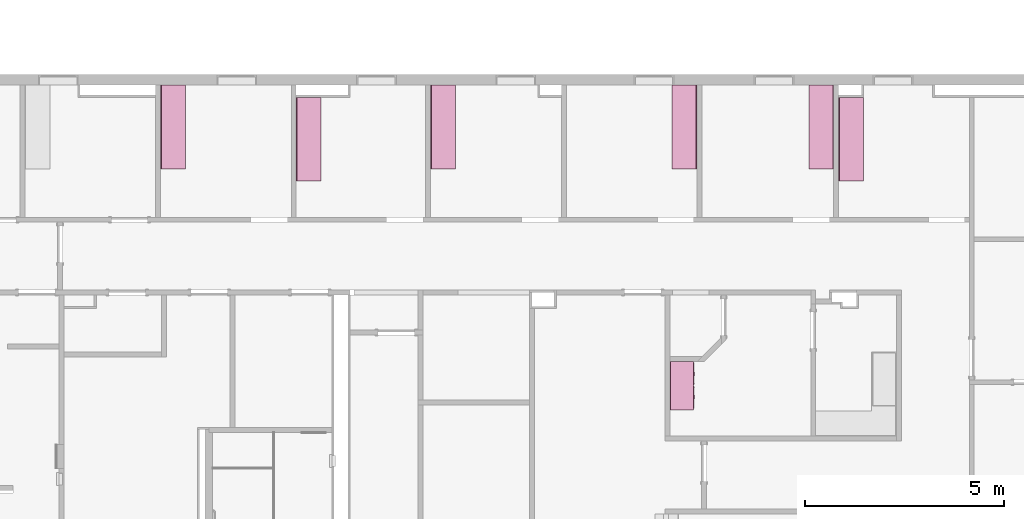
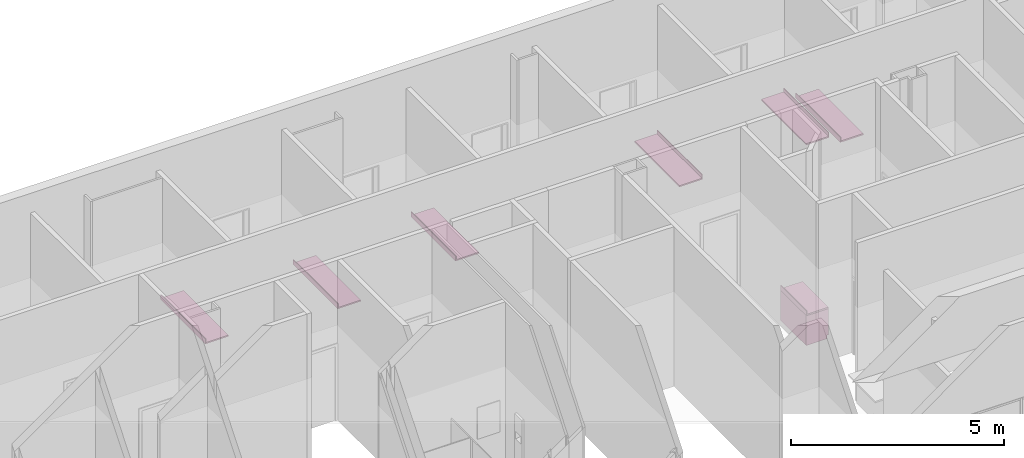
# One storey, part 43 of 45: 8 furnishings, 6 openings.
"""IFC2X3 building model written with IfcOpenShell, lengths in metres."""

from ifc_helpers import new_model, entity, si_unit, converted_unit, frame, frame_2d, origin, origin_2d_with_axis, place, context, project, spatial, polyline, circle_curve, parameter, trimmed, segment, composite_curve, rectangle, outline, extrude, face_set, surface_model, source, transform, mapped, type_object, type_shapes, element, save


model = new_model("IFC2X3")

# Units and contexts
model_context = context("Model", 3, precision=1e-09, world=origin())
plan_context = context("Plan", 3, precision=1e-09, world=origin())
ifc_project = project(units=[si_unit("LENGTHUNIT", "METRE"), si_unit("AREAUNIT", "SQUARE_METRE"), si_unit("VOLUMEUNIT", "CUBIC_METRE"), converted_unit("PLANEANGLEUNIT", "DEGREE", entity("IfcRatioMeasure", 0.01745329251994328), si_unit("PLANEANGLEUNIT", "RADIAN"), dimensions=[0, 0, 0, 0, 0, 0, 0]), si_unit("TIMEUNIT", "SECOND")], contexts=[model_context, plan_context])

# Site, building, storey, space
site_placement = place(None, origin())
site = spatial("IfcSite", under=ifc_project, at=site_placement, Name="Default", CompositionType="ELEMENT")
building_placement = place(site_placement, origin())
building = spatial("IfcBuilding", under=site, at=building_placement, CompositionType="ELEMENT")
storey_placement = place(building_placement, frame((0.0, 0.0, 4.570000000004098)))
storey = spatial("IfcBuildingStorey", under=building, at=storey_placement, Name="Second Floor", CompositionType="ELEMENT", Elevation=4.570000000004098)
space_1_placement = place(storey_placement, origin())
space_1 = spatial("IfcSpace", under=storey, at=space_1_placement, Name="2A12", CompositionType="ELEMENT", InteriorOrExteriorSpace="INTERNAL")

# Furnishing
furniture_type_1 = type_object("IfcFurnitureType", Name="1200mm", AssemblyPlace="NOTDEFINED")
shared_shape_1 = source(origin(), model_context, "Body", "SurfaceModel", [
    surface_model("IfcFaceBasedSurfaceModel", [(1.180949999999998, 0.04445000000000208, 0.86000000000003), (1.180949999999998, 0.04445000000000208, 0.09999999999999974), (0.01905000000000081, 0.04445000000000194, 0.09999999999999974), (0.01905000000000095, 0.04445000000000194, 0.86000000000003), (1.2, 0.02540000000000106, 0.8600000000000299), (0.0, 0.02540000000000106, 0.8600000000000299), (1.2, 0.02540000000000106, 0.09999999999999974), (0.0, 0.02540000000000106, 0.0999999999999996), (0.01905000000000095, 0.6063499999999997, 0.86000000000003), (0.01905000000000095, 0.6063499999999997, 0.09999999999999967), (0.01905000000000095, 0.06040000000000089, 0.09999999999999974), (0.0, 0.6254000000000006, 0.8600000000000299), (0.0, 0.6254000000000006, 0.0), (0.0, 0.06040000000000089, 0.0), (0.0, 0.06040000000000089, 0.09999999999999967), (1.180949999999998, 0.6063499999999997, 0.86000000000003), (1.180949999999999, 0.6063499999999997, 0.09999999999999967), (1.2, 0.6254000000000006, 0.8600000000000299), (1.2, 0.6254000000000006, 0.0), (1.180949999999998, 0.06040000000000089, 0.09999999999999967), (1.2, 0.06040000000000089, 0.09999999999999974), (1.2, 0.06040000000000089, 0.0), (0.3603250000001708, 0.0, 0.8155500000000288), (0.3603250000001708, 0.0, 0.8028500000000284), (0.258725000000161, 0.0, 0.8028500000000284), (0.258725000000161, 0.0, 0.8155500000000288), (0.9412750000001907, 0.0, 0.8155500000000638), (0.9412750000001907, 0.0, 0.8028500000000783), (0.8396750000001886, 0.0, 0.8028500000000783), (0.8396750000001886, 0.0, 0.8155500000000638), (0.5650750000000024, 0.0, 0.6822000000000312), (0.5650750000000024, 0.0, 0.5806000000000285), (0.5523750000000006, 0.0, 0.5806000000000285), (0.5523750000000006, 0.0, 0.6822000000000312), (0.6476249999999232, 0.0, 0.6822000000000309), (0.6476249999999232, 0.0, 0.5806000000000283), (0.6349249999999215, 0.0, 0.5806000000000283), (0.6349249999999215, 0.0, 0.6822000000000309), (0.3603250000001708, 0.01270000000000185, 0.8155500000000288), (0.3603250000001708, 0.01270000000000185, 0.8028500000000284), (0.2587250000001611, 0.01270000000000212, 0.8028500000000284), (0.2587250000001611, 0.01270000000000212, 0.8155500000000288), (0.9412750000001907, 0.01269999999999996, 0.8155500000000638), (0.9412750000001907, 0.01269999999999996, 0.8028500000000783), (0.8396750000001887, 0.01270000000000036, 0.8028500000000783), (0.8396750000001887, 0.01270000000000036, 0.8155500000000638), (0.5650750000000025, 0.01270000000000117, 0.6822000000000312), (0.5650750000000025, 0.01270000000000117, 0.5806000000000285), (0.5523750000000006, 0.01270000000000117, 0.5806000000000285), (0.5523750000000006, 0.01270000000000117, 0.6822000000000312), (0.6476249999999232, 0.0127000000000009, 0.6822000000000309), (0.6476249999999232, 0.0127000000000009, 0.5806000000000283), (0.6349249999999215, 0.0127000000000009, 0.5806000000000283), (0.6349249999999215, 0.0127000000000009, 0.6822000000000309), (0.5904749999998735, 0.01270000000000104, 0.8409500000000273), (0.5904749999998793, 0.01270000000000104, 0.7393500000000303), (0.01905000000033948, 0.0127000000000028, 0.7393500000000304), (0.01905000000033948, 0.0127000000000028, 0.8409500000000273), (1.180950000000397, 0.01269999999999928, 0.8409500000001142), (1.180950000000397, 0.01269999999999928, 0.7393500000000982), (0.6095249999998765, 0.01270000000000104, 0.7393500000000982), (0.6095249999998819, 0.01270000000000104, 0.8409500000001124), (0.5904749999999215, 0.01270000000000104, 0.7203000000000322), (0.5904749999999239, 0.01270000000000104, 0.1190499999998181), (0.01905000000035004, 0.0127000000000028, 0.1190499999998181), (0.01905000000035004, 0.0127000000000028, 0.7203000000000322), (1.180950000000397, 0.01269999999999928, 0.7203000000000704), (1.180950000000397, 0.01269999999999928, 0.1190499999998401), (0.6095249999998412, 0.01270000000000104, 0.1190499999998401), (0.6095249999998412, 0.01270000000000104, 0.7203000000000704), (0.5904749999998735, 0.02540000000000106, 0.8409500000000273), (0.5904749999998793, 0.02540000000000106, 0.7393500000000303), (0.01905000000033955, 0.02540000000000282, 0.7393500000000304), (0.01905000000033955, 0.02540000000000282, 0.8409500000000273), (1.180950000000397, 0.02539999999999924, 0.8409500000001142), (1.180950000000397, 0.02539999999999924, 0.7393500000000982), (0.6095249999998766, 0.025400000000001, 0.7393500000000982), (0.6095249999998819, 0.025400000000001, 0.8409500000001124), (0.5904749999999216, 0.02540000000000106, 0.7203000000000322), (0.5904749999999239, 0.02540000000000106, 0.1190499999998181), (0.01905000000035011, 0.02540000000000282, 0.1190499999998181), (0.01905000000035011, 0.02540000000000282, 0.7203000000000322), (1.180950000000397, 0.02539999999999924, 0.7203000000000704), (1.180950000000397, 0.02539999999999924, 0.1190499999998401), (0.6095249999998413, 0.025400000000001, 0.1190499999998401), (0.6095249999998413, 0.025400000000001, 0.7203000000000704), (1.180949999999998, 0.6063499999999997, 0.1190499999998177), (1.180949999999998, 0.04445000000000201, 0.1190499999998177), (0.01905000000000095, 0.04445000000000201, 0.1190499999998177), (0.01905000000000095, 0.6063499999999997, 0.1190499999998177), (1.180949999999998, 0.6063499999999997, 0.09999999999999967), (1.180949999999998, 0.04445000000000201, 0.09999999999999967), (0.01905000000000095, 0.04445000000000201, 0.09999999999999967)], [face_set([[[0, 1, 2, 3]], [[0, 4, 5, 3]], [[4, 6, 7, 5]], [[2, 1, 6, 7]], [[3, 8, 9, 10, 2]], [[5, 11, 8, 3]], [[7, 5, 11, 12, 13, 14]], [[2, 7, 14, 10]], [[8, 15, 16, 9]], [[11, 17, 15, 8]], [[12, 11, 17, 18]], [[1, 19, 16, 15, 0]], [[0, 15, 17, 4]], [[4, 6, 20, 21, 18, 17]], [[6, 1, 19, 20]], [[10, 9, 16, 19]], [[18, 21, 13, 12]], [[13, 14, 10, 19, 20, 21]]]), face_set([[[22, 23, 24, 25]], [[26, 27, 28, 29]], [[30, 31, 32, 33]], [[34, 35, 36, 37]], [[38, 39, 40, 41]], [[42, 43, 44, 45]], [[46, 47, 48, 49]], [[50, 51, 52, 53]], [[25, 41, 38, 22]], [[24, 40, 41, 25]], [[23, 24, 40, 39]], [[22, 23, 39, 38]], [[29, 45, 42, 26]], [[28, 44, 45, 29]], [[27, 28, 44, 43]], [[26, 27, 43, 42]], [[33, 49, 46, 30]], [[32, 48, 49, 33]], [[31, 32, 48, 47]], [[30, 31, 47, 46]], [[37, 53, 50, 34]], [[36, 52, 53, 37]], [[35, 36, 52, 51]], [[34, 35, 51, 50]]]), face_set([[[54, 55, 56, 57]], [[58, 59, 60, 61]], [[62, 63, 64, 65]], [[66, 67, 68, 69]], [[70, 71, 72, 73]], [[74, 75, 76, 77]], [[78, 79, 80, 81]], [[82, 83, 84, 85]], [[57, 73, 70, 54]], [[56, 57, 73, 72]], [[55, 56, 72, 71]], [[54, 55, 71, 70]], [[61, 77, 74, 58]], [[60, 76, 77, 61]], [[59, 60, 76, 75]], [[58, 59, 75, 74]], [[65, 81, 78, 62]], [[64, 65, 81, 80]], [[63, 64, 80, 79]], [[62, 63, 79, 78]], [[69, 85, 82, 66]], [[68, 84, 85, 69]], [[67, 68, 84, 83]], [[66, 67, 83, 82]]]), face_set([[[86, 87, 88, 89]], [[90, 91, 92, 9]], [[89, 86, 90, 9]], [[88, 89, 9, 92]], [[87, 91, 92, 88]], [[86, 87, 91, 90]]])]),
])
type_shapes(furniture_type_1, [shared_shape_1])
furnishing_1_placement = place(space_1_placement, frame((-11.17060000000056, 42.04730203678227, 0.0), z_axis=(0.0, 0.0, 1.0), x_axis=(0.0, 1.0, 0.0)))
element("IfcFurnishingElement", 1, at=furnishing_1_placement, inside=space_1, type_object=furniture_type_1, Name="M_Base Cabinet-Double Door & 2 Drawer:1200mm:1200mm", ObjectType="1200mm", context=model_context, shape_type="MappedRepresentation", body=[
    mapped(shared_shape_1, transform((0.0, 0.0, 0.0), scale=1.0)),
])

# Space
space_2_placement = place(storey_placement, origin())
space_2 = spatial("IfcSpace", under=storey, at=space_2_placement, Name="2C02", CompositionType="ELEMENT", InteriorOrExteriorSpace="INTERNAL")

# Furnishing, opening
furniture_type_2 = type_object("IfcFurnitureType", Name="600mm Depth", AssemblyPlace="NOTDEFINED")
shared_shape_2 = source(origin(), model_context, "Body", "SweptSolid", [
    extrude(outline(polyline([(-0.0605333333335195, -0.2146833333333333), (0.08106666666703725, -0.2146833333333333), (0.08106666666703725, -0.1956333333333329), (-0.02053333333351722, -0.1956333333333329), (-0.02053333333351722, 0.4103166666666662), (-0.0605333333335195, 0.4103166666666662), (-0.0605333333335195, -0.2146833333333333)])), frame((-1.200462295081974, -0.2146833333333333, 0.920533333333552), z_axis=(1.0, 0.0, 0.0), x_axis=(0.0, 0.0, 1.0)), (0.0, 0.0, 1.0), 2.10996063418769),
])
type_shapes(furniture_type_2, [shared_shape_2])
furnishing_2_placement = place(space_2_placement, frame((-24.59600000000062, 49.29350166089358, 0.0), z_axis=(0.0, 0.0, 1.0), x_axis=(0.0, 1.0, 0.0)))
furnishing_2 = element("IfcFurnishingElement", 2, at=furnishing_2_placement, inside=space_2, type_object=furniture_type_2, Name="M_Counter Top w Sink Hole:600mm Depth:600mm Depth", ObjectType="600mm Depth", context=model_context, shape_type="MappedRepresentation", body=[
    mapped(shared_shape_2, transform((0.0, 0.0, 0.0), scale=1.0)),
])
opening_1_placement = place(space_2_placement, frame((-24.59600000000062, 49.29350166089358, 0.0), z_axis=(0.0, 0.0, 1.0), x_axis=(0.0, 1.0, 0.0)))
element("IfcOpeningElement", 3, at=opening_1_placement, cuts=furnishing_2, Name="M_Counter Top w Sink Hole:600mm Depth:600mm Depth:1", ObjectType="Opening", context=model_context, shape_type="SweptSolid", body=[
    extrude(outline(composite_curve([segment(polyline([(-0.1397000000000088, -0.2017000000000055), (0.1396999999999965, -0.2017000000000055)]), True, "CONTINUOUS"), segment(trimmed(circle_curve(frame_2d((0.1396999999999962, -0.1508999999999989), x_axis=(1.0, 0.0)), 0.05080000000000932), [parameter(270.0000000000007)], [parameter(1.068666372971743e-12)], True, "PARAMETER"), True, "CONTINUOUS"), segment(polyline([(0.1905000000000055, -0.1508999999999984), (0.1905000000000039, 0.1509000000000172)]), True, "CONTINUOUS"), segment(trimmed(circle_curve(frame_2d((0.1397000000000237, 0.1509000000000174), x_axis=(1.0, 0.0)), 0.05079999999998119), [parameter(359.9999999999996)], [parameter(90.0000000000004)], True, "PARAMETER"), True, "CONTINUOUS"), segment(polyline([(0.1397000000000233, 0.2016999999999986), (-0.1397000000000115, 0.2016999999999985)]), True, "CONTINUOUS"), segment(trimmed(circle_curve(frame_2d((-0.1397000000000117, 0.1509000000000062), x_axis=(1.0, 0.0)), 0.0507999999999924), [parameter(90.00000000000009)], [parameter(179.9999999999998)], True, "PARAMETER"), True, "CONTINUOUS"), segment(polyline([(-0.1905000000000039, 0.150900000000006), (-0.1905000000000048, -0.1509000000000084)]), True, "CONTINUOUS"), segment(trimmed(circle_curve(frame_2d((-0.1397000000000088, -0.1509000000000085), x_axis=(1.0, 0.0)), 0.05079999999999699), [parameter(179.9999999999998)], [parameter(269.9999999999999)], True, "PARAMETER"), True, "CONTINUOUS")], self_intersect=False)), frame((-0.2890000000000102, 0.861511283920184, -3.670000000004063), z_axis=(0.0, 0.0, -1.0), x_axis=(0.0, -1.0, 0.0)), (0.0, 0.0, 1.0), 0.04000000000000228),
])

# Space
space_3_placement = place(storey_placement, origin())
space_3 = spatial("IfcSpace", under=storey, at=space_3_placement, Name="2A08", CompositionType="ELEMENT", InteriorOrExteriorSpace="INTERNAL")

# Furnishing, opening
furniture_type_3 = type_object("IfcFurnitureType", Name="600mm Depth", AssemblyPlace="NOTDEFINED")
type_shapes(furniture_type_3, [shared_shape_2])
furnishing_3_placement = place(space_3_placement, frame((-17.81000000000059, 49.29350166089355, 0.0), z_axis=(0.0, 0.0, 1.0), x_axis=(0.0, 1.0, 0.0)))
furnishing_3 = element("IfcFurnishingElement", 4, at=furnishing_3_placement, inside=space_3, type_object=furniture_type_3, Name="M_Counter Top w Sink Hole:600mm Depth:600mm Depth", ObjectType="600mm Depth", context=model_context, shape_type="MappedRepresentation", body=[
    mapped(shared_shape_2, transform((0.0, 0.0, 0.0), scale=1.0)),
])
opening_2_placement = place(space_3_placement, frame((-17.81000000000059, 49.29350166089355, 0.0), z_axis=(0.0, 0.0, 1.0), x_axis=(0.0, 1.0, 0.0)))
element("IfcOpeningElement", 5, at=opening_2_placement, cuts=furnishing_3, Name="M_Counter Top w Sink Hole:600mm Depth:600mm Depth:1", ObjectType="Opening", context=model_context, shape_type="SweptSolid", body=[
    extrude(outline(composite_curve([segment(polyline([(-0.1397000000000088, -0.2017000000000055), (0.1396999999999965, -0.2017000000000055)]), True, "CONTINUOUS"), segment(trimmed(circle_curve(frame_2d((0.1396999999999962, -0.1508999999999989), x_axis=(1.0, 0.0)), 0.05080000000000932), [parameter(270.0000000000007)], [parameter(1.068666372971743e-12)], True, "PARAMETER"), True, "CONTINUOUS"), segment(polyline([(0.1905000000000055, -0.1508999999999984), (0.1905000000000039, 0.1509000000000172)]), True, "CONTINUOUS"), segment(trimmed(circle_curve(frame_2d((0.1397000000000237, 0.1509000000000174), x_axis=(1.0, 0.0)), 0.05079999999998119), [parameter(359.9999999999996)], [parameter(90.0000000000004)], True, "PARAMETER"), True, "CONTINUOUS"), segment(polyline([(0.1397000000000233, 0.2016999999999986), (-0.1397000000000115, 0.2016999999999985)]), True, "CONTINUOUS"), segment(trimmed(circle_curve(frame_2d((-0.1397000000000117, 0.1509000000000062), x_axis=(1.0, 0.0)), 0.0507999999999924), [parameter(90.00000000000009)], [parameter(179.9999999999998)], True, "PARAMETER"), True, "CONTINUOUS"), segment(polyline([(-0.1905000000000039, 0.150900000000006), (-0.1905000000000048, -0.1509000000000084)]), True, "CONTINUOUS"), segment(trimmed(circle_curve(frame_2d((-0.1397000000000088, -0.1509000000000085), x_axis=(1.0, 0.0)), 0.05079999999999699), [parameter(179.9999999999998)], [parameter(269.9999999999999)], True, "PARAMETER"), True, "CONTINUOUS")], self_intersect=False)), frame((-0.2890000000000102, 0.861511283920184, -3.670000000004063), z_axis=(0.0, 0.0, -1.0), x_axis=(0.0, -1.0, 0.0)), (0.0, 0.0, 1.0), 0.04000000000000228),
])

# Space
space_4_placement = place(storey_placement, origin())
space_4 = spatial("IfcSpace", under=storey, at=space_4_placement, Name="2A09", CompositionType="ELEMENT", InteriorOrExteriorSpace="INTERNAL")

# Furnishing, opening
furniture_type_4 = type_object("IfcFurnitureType", Name="600mm Depth", AssemblyPlace="NOTDEFINED")
type_shapes(furniture_type_4, [shared_shape_2])
furnishing_4_placement = place(space_4_placement, frame((-21.18600000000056, 48.98494037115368, 0.0), z_axis=(0.0, 0.0, 1.0), x_axis=(0.0, 1.0, 0.0)))
furnishing_4 = element("IfcFurnishingElement", 6, at=furnishing_4_placement, inside=space_4, type_object=furniture_type_4, Name="M_Counter Top w Sink Hole:600mm Depth:600mm Depth", ObjectType="600mm Depth", context=model_context, shape_type="MappedRepresentation", body=[
    mapped(shared_shape_2, transform((0.0, 0.0, 0.0), scale=1.0)),
])
opening_3_placement = place(space_4_placement, frame((-21.18600000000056, 48.98494037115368, 0.0), z_axis=(0.0, 0.0, 1.0), x_axis=(0.0, 1.0, 0.0)))
element("IfcOpeningElement", 7, at=opening_3_placement, cuts=furnishing_4, Name="M_Counter Top w Sink Hole:600mm Depth:600mm Depth:1", ObjectType="Opening", context=model_context, shape_type="SweptSolid", body=[
    extrude(outline(composite_curve([segment(polyline([(-0.1397000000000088, -0.2017000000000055), (0.1396999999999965, -0.2017000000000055)]), True, "CONTINUOUS"), segment(trimmed(circle_curve(frame_2d((0.1396999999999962, -0.1508999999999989), x_axis=(1.0, 0.0)), 0.05080000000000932), [parameter(270.0000000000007)], [parameter(1.068666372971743e-12)], True, "PARAMETER"), True, "CONTINUOUS"), segment(polyline([(0.1905000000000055, -0.1508999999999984), (0.1905000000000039, 0.1509000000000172)]), True, "CONTINUOUS"), segment(trimmed(circle_curve(frame_2d((0.1397000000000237, 0.1509000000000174), x_axis=(1.0, 0.0)), 0.05079999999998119), [parameter(359.9999999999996)], [parameter(90.0000000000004)], True, "PARAMETER"), True, "CONTINUOUS"), segment(polyline([(0.1397000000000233, 0.2016999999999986), (-0.1397000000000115, 0.2016999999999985)]), True, "CONTINUOUS"), segment(trimmed(circle_curve(frame_2d((-0.1397000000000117, 0.1509000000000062), x_axis=(1.0, 0.0)), 0.0507999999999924), [parameter(90.00000000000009)], [parameter(179.9999999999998)], True, "PARAMETER"), True, "CONTINUOUS"), segment(polyline([(-0.1905000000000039, 0.150900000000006), (-0.1905000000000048, -0.1509000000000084)]), True, "CONTINUOUS"), segment(trimmed(circle_curve(frame_2d((-0.1397000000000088, -0.1509000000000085), x_axis=(1.0, 0.0)), 0.05079999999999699), [parameter(179.9999999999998)], [parameter(269.9999999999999)], True, "PARAMETER"), True, "CONTINUOUS")], self_intersect=False)), frame((-0.2890000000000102, 0.861511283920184, -3.670000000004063), z_axis=(0.0, 0.0, -1.0), x_axis=(0.0, -1.0, 0.0)), (0.0, 0.0, 1.0), 0.04000000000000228),
])

# Space
space_5_placement = place(storey_placement, origin())
space_5 = spatial("IfcSpace", under=storey, at=space_5_placement, Name="2A05", CompositionType="ELEMENT", InteriorOrExteriorSpace="INTERNAL")

# Furnishing, opening
furniture_type_5 = type_object("IfcFurnitureType", Name="600mm Depth", AssemblyPlace="NOTDEFINED")
type_shapes(furniture_type_5, [shared_shape_2])
furnishing_5_placement = place(space_5_placement, frame((-7.556000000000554, 48.98494037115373, 0.0), z_axis=(0.0, 0.0, 1.0), x_axis=(0.0, 1.0, 0.0)))
furnishing_5 = element("IfcFurnishingElement", 8, at=furnishing_5_placement, inside=space_5, type_object=furniture_type_5, Name="M_Counter Top w Sink Hole:600mm Depth:600mm Depth", ObjectType="600mm Depth", context=model_context, shape_type="MappedRepresentation", body=[
    mapped(shared_shape_2, transform((0.0, 0.0, 0.0), scale=1.0)),
])
opening_4_placement = place(space_5_placement, frame((-7.556000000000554, 48.98494037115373, 0.0), z_axis=(0.0, 0.0, 1.0), x_axis=(0.0, 1.0, 0.0)))
element("IfcOpeningElement", 9, at=opening_4_placement, cuts=furnishing_5, Name="M_Counter Top w Sink Hole:600mm Depth:600mm Depth:1", ObjectType="Opening", context=model_context, shape_type="SweptSolid", body=[
    extrude(outline(composite_curve([segment(polyline([(-0.1397000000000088, -0.2017000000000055), (0.1396999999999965, -0.2017000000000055)]), True, "CONTINUOUS"), segment(trimmed(circle_curve(frame_2d((0.1396999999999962, -0.1508999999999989), x_axis=(1.0, 0.0)), 0.05080000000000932), [parameter(270.0000000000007)], [parameter(1.068666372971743e-12)], True, "PARAMETER"), True, "CONTINUOUS"), segment(polyline([(0.1905000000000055, -0.1508999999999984), (0.1905000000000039, 0.1509000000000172)]), True, "CONTINUOUS"), segment(trimmed(circle_curve(frame_2d((0.1397000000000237, 0.1509000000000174), x_axis=(1.0, 0.0)), 0.05079999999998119), [parameter(359.9999999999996)], [parameter(90.0000000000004)], True, "PARAMETER"), True, "CONTINUOUS"), segment(polyline([(0.1397000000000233, 0.2016999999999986), (-0.1397000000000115, 0.2016999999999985)]), True, "CONTINUOUS"), segment(trimmed(circle_curve(frame_2d((-0.1397000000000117, 0.1509000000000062), x_axis=(1.0, 0.0)), 0.0507999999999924), [parameter(90.00000000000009)], [parameter(179.9999999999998)], True, "PARAMETER"), True, "CONTINUOUS"), segment(polyline([(-0.1905000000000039, 0.150900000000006), (-0.1905000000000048, -0.1509000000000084)]), True, "CONTINUOUS"), segment(trimmed(circle_curve(frame_2d((-0.1397000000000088, -0.1509000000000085), x_axis=(1.0, 0.0)), 0.05079999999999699), [parameter(179.9999999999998)], [parameter(269.9999999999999)], True, "PARAMETER"), True, "CONTINUOUS")], self_intersect=False)), frame((-0.2890000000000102, 0.861511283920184, -3.670000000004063), z_axis=(0.0, 0.0, -1.0), x_axis=(0.0, -1.0, 0.0)), (0.0, 0.0, 1.0), 0.04000000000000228),
])

# Space
space_6_placement = place(storey_placement, origin())
space_6 = spatial("IfcSpace", under=storey, at=space_6_placement, Name="2A07", CompositionType="ELEMENT", InteriorOrExteriorSpace="INTERNAL")

# Furnishing, opening
furniture_type_6 = type_object("IfcFurnitureType", Name="600mm Depth", AssemblyPlace="NOTDEFINED")
shared_shape_3 = source(origin(), model_context, "Body", "SweptSolid", [
    extrude(outline(polyline([(-0.2146833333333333, -0.06053333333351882), (0.4103166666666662, -0.06053333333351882), (0.4103166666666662, -0.02053333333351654), (-0.1956333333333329, -0.02053333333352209), (-0.1956333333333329, 0.08106666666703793), (-0.2146833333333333, 0.08106666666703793), (-0.2146833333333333, -0.06053333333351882)])), frame((-1.200462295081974, 0.2146833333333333, 0.9205333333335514), z_axis=(1.0, 0.0, 0.0), x_axis=(0.0, 1.0, 0.0)), (0.0, 0.0, 1.0), 2.10996063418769),
])
type_shapes(furniture_type_6, [shared_shape_3])
furnishing_6_placement = place(space_6_placement, frame((-11.11400000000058, 49.29350166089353, 0.0), z_axis=(0.0, 0.0, 1.0), x_axis=(0.0, 1.0, 0.0)))
furnishing_6 = element("IfcFurnishingElement", 10, at=furnishing_6_placement, inside=space_6, type_object=furniture_type_6, Name="M_Counter Top w Sink Hole:600mm Depth:600mm Depth", ObjectType="600mm Depth", context=model_context, shape_type="MappedRepresentation", body=[
    mapped(shared_shape_3, transform((0.0, 0.0, 0.0), scale=1.0)),
])
opening_5_placement = place(space_6_placement, frame((-11.11400000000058, 49.29350166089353, 0.0), z_axis=(0.0, 0.0, 1.0), x_axis=(0.0, 1.0, 0.0)))
element("IfcOpeningElement", 11, at=opening_5_placement, cuts=furnishing_6, Name="M_Counter Top w Sink Hole:600mm Depth:600mm Depth:1", ObjectType="Opening", context=model_context, shape_type="SweptSolid", body=[
    extrude(outline(composite_curve([segment(trimmed(circle_curve(frame_2d((-0.1397000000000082, 0.1509000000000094), x_axis=(1.0, 0.0)), 0.05079999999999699), [parameter(90.00000000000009)], [parameter(180.0000000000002)], True, "PARAMETER"), True, "CONTINUOUS"), segment(polyline([(-0.1905000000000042, 0.1509000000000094), (-0.1905000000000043, -0.1509000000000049)]), True, "CONTINUOUS"), segment(trimmed(circle_curve(frame_2d((-0.1397000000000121, -0.1509000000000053), x_axis=(1.0, 0.0)), 0.0507999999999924), [parameter(180.0000000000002)], [parameter(269.9999999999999)], True, "PARAMETER"), True, "CONTINUOUS"), segment(polyline([(-0.1397000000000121, -0.2016999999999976), (0.1397000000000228, -0.2016999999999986)]), True, "CONTINUOUS"), segment(trimmed(circle_curve(frame_2d((0.1397000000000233, -0.1509000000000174), x_axis=(1.0, 0.0)), 0.05079999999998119), [parameter(269.9999999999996)], [parameter(4.071109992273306e-13)], True, "PARAMETER"), True, "CONTINUOUS"), segment(polyline([(0.1905000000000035, -0.1509000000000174), (0.1905000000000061, 0.1508999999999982)]), True, "CONTINUOUS"), segment(trimmed(circle_curve(frame_2d((0.1396999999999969, 0.1508999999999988), x_axis=(1.0, 0.0)), 0.05080000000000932), [parameter(359.9999999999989)], [parameter(89.99999999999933)], True, "PARAMETER"), True, "CONTINUOUS"), segment(polyline([(0.1396999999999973, 0.2017000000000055), (-0.139700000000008, 0.2017000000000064)]), True, "CONTINUOUS")], self_intersect=False)), frame((0.2890000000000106, 0.8615112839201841, -3.670000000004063), z_axis=(0.0, 0.0, -1.0), x_axis=(0.0, -1.0, 0.0)), (0.0, 0.0, 1.0), 0.04000000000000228),
])

# Space
space_7_placement = place(storey_placement, origin())
space_7 = spatial("IfcSpace", under=storey, at=space_7_placement, Name="2A06", CompositionType="ELEMENT", InteriorOrExteriorSpace="INTERNAL")

# Furnishing, opening
furniture_type_7 = type_object("IfcFurnitureType", Name="600mm Depth", AssemblyPlace="NOTDEFINED")
type_shapes(furniture_type_7, [shared_shape_3])
furnishing_7_placement = place(space_7_placement, frame((-7.680000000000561, 49.29350166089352, 0.0), z_axis=(0.0, 0.0, 1.0), x_axis=(0.0, 1.0, 0.0)))
furnishing_7 = element("IfcFurnishingElement", 12, at=furnishing_7_placement, inside=space_7, type_object=furniture_type_7, Name="M_Counter Top w Sink Hole:600mm Depth:600mm Depth", ObjectType="600mm Depth", context=model_context, shape_type="MappedRepresentation", body=[
    mapped(shared_shape_3, transform((0.0, 0.0, 0.0), scale=1.0)),
])
opening_6_placement = place(space_7_placement, frame((-7.680000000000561, 49.29350166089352, 0.0), z_axis=(0.0, 0.0, 1.0), x_axis=(0.0, 1.0, 0.0)))
element("IfcOpeningElement", 13, at=opening_6_placement, cuts=furnishing_7, Name="M_Counter Top w Sink Hole:600mm Depth:600mm Depth:1", ObjectType="Opening", context=model_context, shape_type="SweptSolid", body=[
    extrude(outline(composite_curve([segment(trimmed(circle_curve(frame_2d((-0.1397000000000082, 0.1509000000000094), x_axis=(1.0, 0.0)), 0.05079999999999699), [parameter(90.00000000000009)], [parameter(180.0000000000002)], True, "PARAMETER"), True, "CONTINUOUS"), segment(polyline([(-0.1905000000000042, 0.1509000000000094), (-0.1905000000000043, -0.1509000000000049)]), True, "CONTINUOUS"), segment(trimmed(circle_curve(frame_2d((-0.1397000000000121, -0.1509000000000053), x_axis=(1.0, 0.0)), 0.0507999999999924), [parameter(180.0000000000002)], [parameter(269.9999999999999)], True, "PARAMETER"), True, "CONTINUOUS"), segment(polyline([(-0.1397000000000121, -0.2016999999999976), (0.1397000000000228, -0.2016999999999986)]), True, "CONTINUOUS"), segment(trimmed(circle_curve(frame_2d((0.1397000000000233, -0.1509000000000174), x_axis=(1.0, 0.0)), 0.05079999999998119), [parameter(269.9999999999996)], [parameter(4.071109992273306e-13)], True, "PARAMETER"), True, "CONTINUOUS"), segment(polyline([(0.1905000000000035, -0.1509000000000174), (0.1905000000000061, 0.1508999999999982)]), True, "CONTINUOUS"), segment(trimmed(circle_curve(frame_2d((0.1396999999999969, 0.1508999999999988), x_axis=(1.0, 0.0)), 0.05080000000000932), [parameter(359.9999999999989)], [parameter(89.99999999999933)], True, "PARAMETER"), True, "CONTINUOUS"), segment(polyline([(0.1396999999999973, 0.2017000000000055), (-0.139700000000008, 0.2017000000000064)]), True, "CONTINUOUS")], self_intersect=False)), frame((0.2890000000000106, 0.8615112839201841, -3.670000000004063), z_axis=(0.0, 0.0, -1.0), x_axis=(0.0, -1.0, 0.0)), (0.0, 0.0, 1.0), 0.04000000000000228),
])

# Furnishing
furniture_type_8 = type_object("IfcFurnitureType", Name="600mm Depth", AssemblyPlace="NOTDEFINED")
shared_shape_4 = source(origin(), model_context, "Body", "SweptSolid", [
    extrude(rectangle(XDim=0.01905000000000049, YDim=1.219999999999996, at=origin_2d_with_axis()), frame((-0.5904622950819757, -0.009525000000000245, 0.9000000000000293), z_axis=(0.0, 0.0, 1.0), x_axis=(0.0, -1.0, 0.0)), (0.0, 0.0, 1.0), 0.1016000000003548),
    extrude(rectangle(XDim=1.219999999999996, YDim=0.5999999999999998, at=origin_2d_with_axis()), frame((-0.5904622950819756, -0.2999999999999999, 0.8600000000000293), z_axis=(0.0, 0.0, 1.0), x_axis=(-1.0, 0.0, 0.0)), (0.0, 0.0, 1.0), 0.04000000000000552),
])
type_shapes(furniture_type_8, [shared_shape_4])
furnishing_8_placement = place(space_1_placement, frame((-11.79600000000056, 43.23776433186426, 0.0), z_axis=(0.0, 0.0, 1.0), x_axis=(0.0, 1.0, 0.0)))
element("IfcFurnishingElement", 14, at=furnishing_8_placement, inside=space_1, type_object=furniture_type_8, Name="M_Counter Top:600mm Depth:600mm Depth", ObjectType="600mm Depth", context=model_context, shape_type="MappedRepresentation", body=[
    mapped(shared_shape_4, transform((0.0, 0.0, 0.0), scale=1.0)),
])

save(model, "model.ifc")
